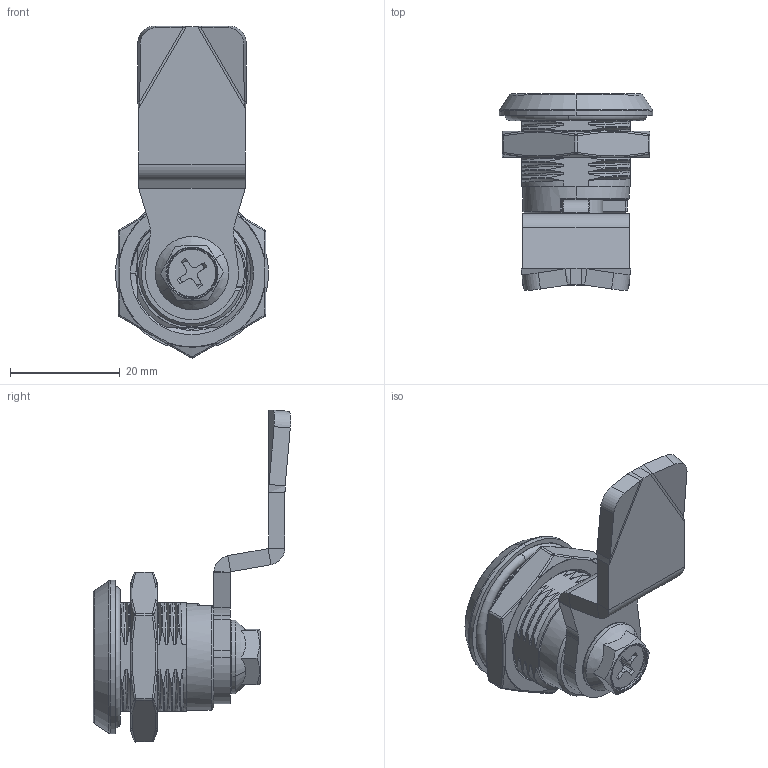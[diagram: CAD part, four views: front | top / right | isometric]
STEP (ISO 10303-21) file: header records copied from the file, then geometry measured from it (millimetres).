
FILE_DESCRIPTION (( 'STEP AP214' ), '1' );
FILE_NAME ('CUYUE.D1-1401-014蚾饜芞.STEP', '2026-06-16T01:42:14', ( '' ), ( '' ), 'SwSTEP 2.0', 'SolidWorks 2020', '' );
FILE_SCHEMA (( 'AUTOMOTIVE_DESIGN' ));
Length unit declared in the file: millimetre
Products named in the file (9): CUYUE.D1-1401-014蚾饜芞; D1-1401-013坶褲; CAM4510; M6X8蹟隊; J-M22蹟譫; D1-1401-014坶郋; 2X26密封圈; 2X16密封圈; 10.2X0.3等疏え
Assembly tree (9 placements, depth 2):
  CUYUE.D1-1401-014蚾饜芞
    D1-1401-013坶褲
    2X16密封圈  x2
    2X26密封圈
    10.2X0.3等疏え
    M6X8蹟隊
    D1-1401-014坶郋
    J-M22蹟譫
    CAM4510
Bounding box: 28 x 36.04 x 60.64 mm (x, y, z)
Volume: 12254 mm3; surface area: 11713.2 mm2
Topology: 9 solids, 9 shells, 569 faces, 1435 edges, 885 vertices
Faces by surface type: bspline 193, cylinder 173, plane 116, cone 48, torus 37, sphere 2
Entity records: 54241 total; most frequent: CARTESIAN_POINT 42231, ORIENTED_EDGE 2846, DIRECTION 1896, EDGE_CURVE 1423, VERTEX_POINT 881, AXIS2_PLACEMENT_3D 735, EDGE_LOOP 584, ADVANCED_FACE 565
